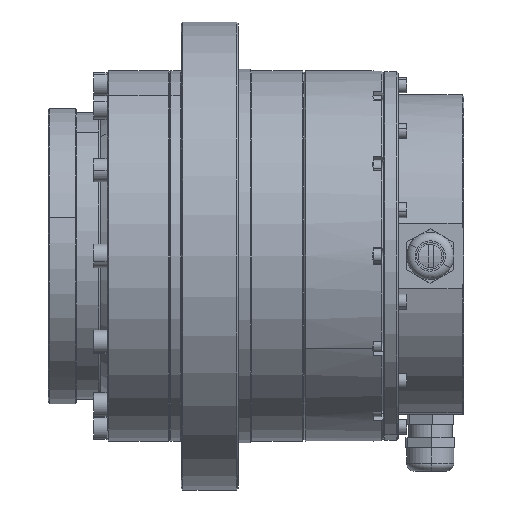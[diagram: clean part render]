
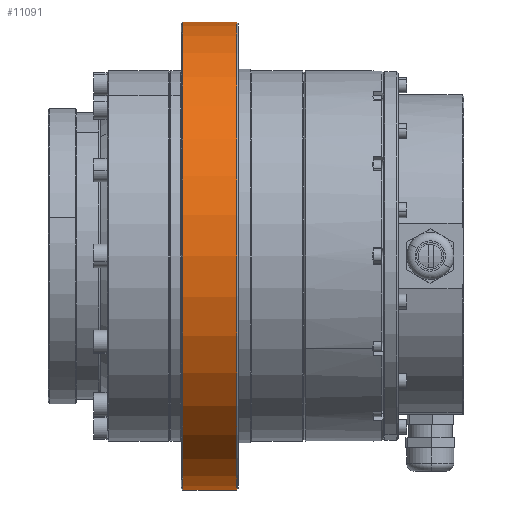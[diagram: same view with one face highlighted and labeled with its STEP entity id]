
A CAD part, front view. The second image highlights one B-rep face of the part: STEP entity #11091.
In plain terms, the highlighted cylindrical face has radius 69.5 mm (diameter 139 mm), a partial arc.
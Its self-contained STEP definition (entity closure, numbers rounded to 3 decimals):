
#1778 = LINE ( 'NONE', #51883, #25656 ) ;
#5600 = EDGE_CURVE ( 'NONE', #34797, #84709, #80258, .T. ) ;
#7566 = AXIS2_PLACEMENT_3D ( 'NONE', #10919, #12514, #54531 ) ;
#10919 = CARTESIAN_POINT ( 'NONE',  ( 2.5, 0., 0. ) ) ;
#11091 = ADVANCED_FACE ( 'NONE', ( #30221 ), #73308, .T. ) ;
#12514 = DIRECTION ( 'NONE',  ( 1., 0., 0. ) ) ;
#12752 = CIRCLE ( 'NONE', #7566, 69.5 ) ;
#13691 = EDGE_CURVE ( 'NONE', #18554, #84709, #12752, .T. ) ;
#18080 = CARTESIAN_POINT ( 'NONE',  ( 18.5, 0., 0. ) ) ;
#18554 = VERTEX_POINT ( 'NONE', #31849 ) ;
#20352 = AXIS2_PLACEMENT_3D ( 'NONE', #18080, #66092, #82951 ) ;
#23124 = ORIENTED_EDGE ( 'NONE', *, *, #5600, .F. ) ;
#23178 = EDGE_CURVE ( 'NONE', #101078, #18554, #1778, .T. ) ;
#25656 = VECTOR ( 'NONE', #51359, 1000. ) ;
#27955 = CARTESIAN_POINT ( 'NONE',  ( 2.5, 0., -69.5 ) ) ;
#30221 = FACE_OUTER_BOUND ( 'NONE', #97460, .T. ) ;
#31849 = CARTESIAN_POINT ( 'NONE',  ( 2.5, 0., 69.5 ) ) ;
#34797 = VERTEX_POINT ( 'NONE', #53249 ) ;
#38911 = CARTESIAN_POINT ( 'NONE',  ( 18.5, 0., 69.5 ) ) ;
#51359 = DIRECTION ( 'NONE',  ( -1., 0., 0. ) ) ;
#51883 = CARTESIAN_POINT ( 'NONE',  ( 19., 0., 69.5 ) ) ;
#53249 = CARTESIAN_POINT ( 'NONE',  ( 18.5, 0., -69.5 ) ) ;
#54224 = AXIS2_PLACEMENT_3D ( 'NONE', #56951, #81974, #73853 ) ;
#54531 = DIRECTION ( 'NONE',  ( 0., 0., 1. ) ) ;
#55571 = ORIENTED_EDGE ( 'NONE', *, *, #13691, .T. ) ;
#56951 = CARTESIAN_POINT ( 'NONE',  ( 19., 0., 0. ) ) ;
#58698 = CIRCLE ( 'NONE', #20352, 69.5 ) ;
#59087 = ORIENTED_EDGE ( 'NONE', *, *, #23178, .T. ) ;
#63464 = ORIENTED_EDGE ( 'NONE', *, *, #93164, .T. ) ;
#66092 = DIRECTION ( 'NONE',  ( -1., 0., 0. ) ) ;
#67963 = VECTOR ( 'NONE', #88921, 1000. ) ;
#73308 = CYLINDRICAL_SURFACE ( 'NONE', #54224, 69.5 ) ;
#73853 = DIRECTION ( 'NONE',  ( 0., 0., 1. ) ) ;
#80258 = LINE ( 'NONE', #104754, #67963 ) ;
#81974 = DIRECTION ( 'NONE',  ( -1., 0., 0. ) ) ;
#82951 = DIRECTION ( 'NONE',  ( 0., 0., 1. ) ) ;
#84709 = VERTEX_POINT ( 'NONE', #27955 ) ;
#88921 = DIRECTION ( 'NONE',  ( -1., 0., 0. ) ) ;
#93164 = EDGE_CURVE ( 'NONE', #34797, #101078, #58698, .T. ) ;
#97460 = EDGE_LOOP ( 'NONE', ( #23124, #63464, #59087, #55571 ) ) ;
#101078 = VERTEX_POINT ( 'NONE', #38911 ) ;
#104754 = CARTESIAN_POINT ( 'NONE',  ( 19., 0., -69.5 ) ) ;
